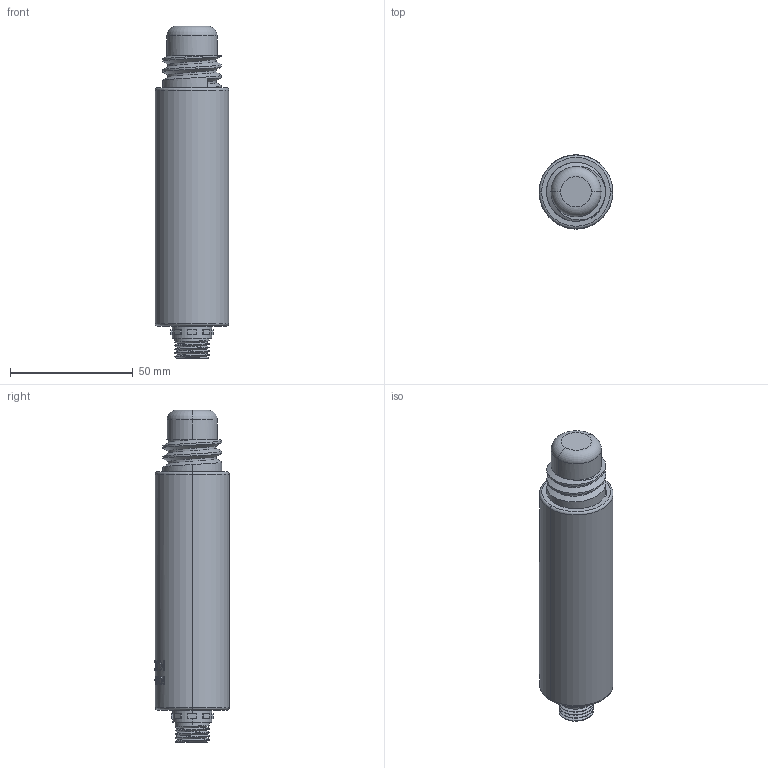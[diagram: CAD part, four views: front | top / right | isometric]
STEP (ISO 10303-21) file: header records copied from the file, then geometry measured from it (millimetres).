
FILE_DESCRIPTION((''),'2;1');
FILE_NAME('ASM0004_ASM','2025-12-26T10:19:27',('28740194'),(''),'CREO PARAMETRIC BY PTC INC, 2024063','CREO PARAMETRIC BY PTC INC, 2024063','');
FILE_SCHEMA(('CONFIG_CONTROL_DESIGN'));
Length unit declared in the file: millimetre
Products named in the file (3): KWS-600; 0002; ASM0004_ASM
Assembly tree (2 placements, depth 2):
  ASM0004_ASM
    KWS-600
    0002
Bounding box: 30 x 30.18 x 135.1 mm (x, y, z)
Volume: 78782.6 mm3; surface area: 14040.5 mm2
Topology: 2 solids, 2 shells, 485 faces, 1340 edges, 890 vertices
Faces by surface type: bspline 375, plane 56, cylinder 48, torus 6
Entity records: 22249 total; most frequent: CARTESIAN_POINT 12608, ORIENTED_EDGE 2680, EDGE_CURVE 1340, B_SPLINE_CURVE_WITH_KNOTS 951, VERTEX_POINT 890, DIRECTION 805, EDGE_LOOP 516, FACE_OUTER_BOUND 485
